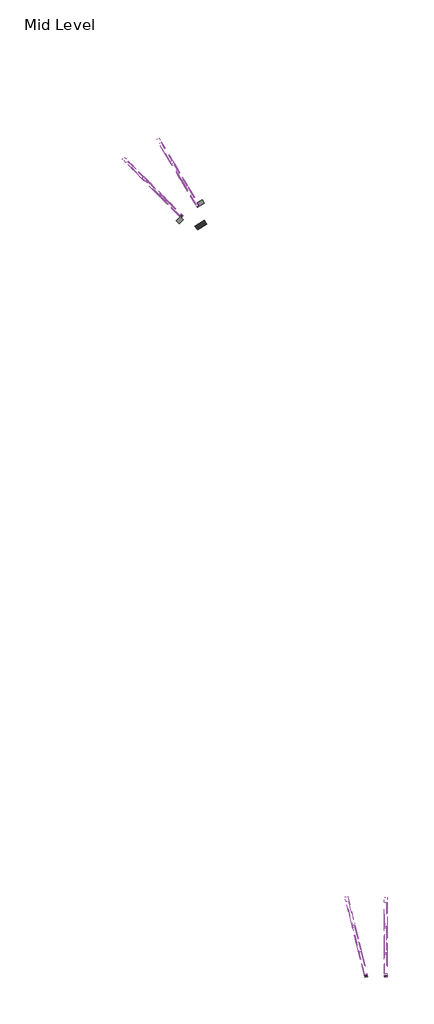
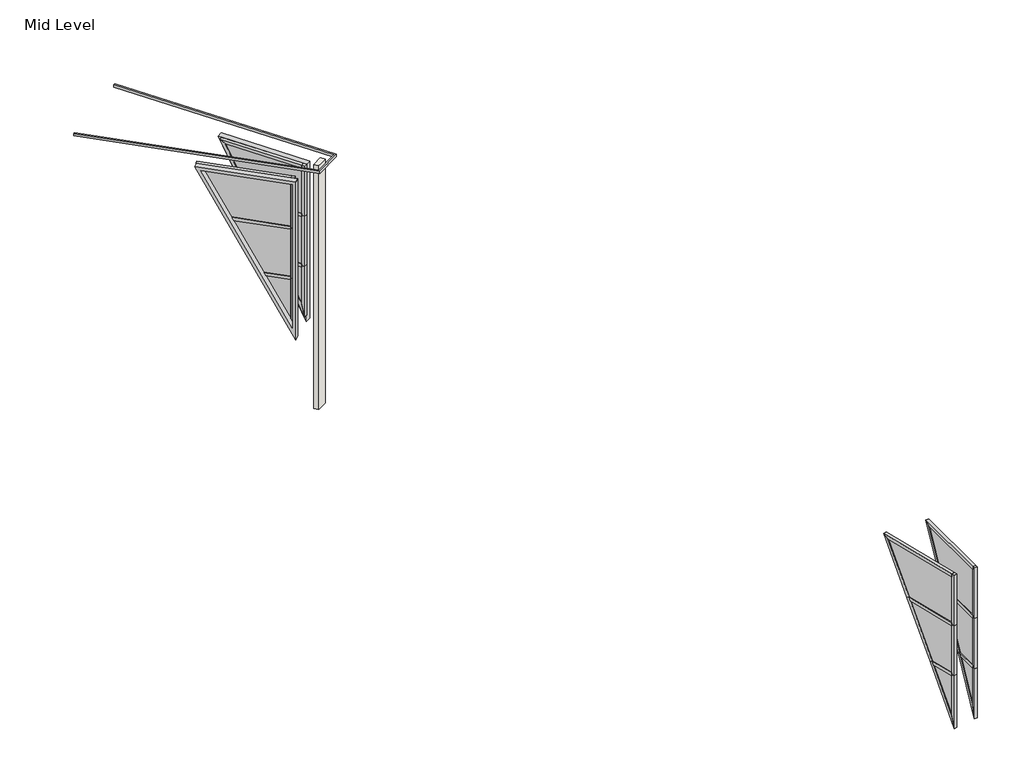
# One storey: 36 members, 12 plates, 1 furniture element, 1 wall.
"""IFC4 building model written with IfcOpenShell, lengths in millimetres."""

from ifc_helpers import new_model, si_unit, frame, origin, place, context, project, spatial, polyline, outline, extrude, transform, mapped, element, save
from components import casework_7_casework_7_e5262f13, rectangular_mullion_50x150mm_2f168007, rectangular_mullion_50x150mm_f55a7c15, rectangular_mullion_50x150mm_1f74a128, rectangular_mullion_50x150mm_1b0b66ed, rectangular_mullion_50x150mm_d610cb71, rectangular_mullion_50x150mm_8bf6f725, rectangular_mullion_50x150mm_a9fba038, rectangular_mullion_50x150mm_b1203546, rectangular_mullion_50x150mm_f1953873, rectangular_mullion_50x150mm_4709a87d, rectangular_mullion_50x150mm_19f53925, rectangular_mullion_50x150mm_e94796c8, rectangular_mullion_50x150mm_b4659898, rectangular_mullion_50x150mm_49fdc678, rectangular_mullion_50x150mm_2d824108, system_panel_glazed_8b080dad, system_panel_glazed_0f48b8cc, system_panel_glazed_f67ee010, system_panel_glazed_bd732f67, system_panel_glazed_6067745a, system_panel_glazed_2e5d5ee2

model = new_model("IFC4")

# Units and contexts
model_context = context("Model", 3, world=origin())
ifc_project = project(units=[si_unit("LENGTHUNIT", "METRE", prefix="MILLI")], contexts=[model_context])

# Site, building, storey
site = spatial("IfcSite", under=ifc_project)
building = spatial("IfcBuilding", under=site)
storey = spatial("IfcBuildingStorey", under=building, Name="Mid Level", Elevation=5300.0)

# Furniture
placement = place(None, origin())
casework_7_casework_7_shape = casework_7_casework_7_e5262f13(model_context)
element("IfcFurniture", 1, ObjectType="Casework 7 : Casework 7", at=placement, inside=storey, context=model_context, shape_type="MappedRepresentation", body=[
    mapped(casework_7_casework_7_shape, transform((0.0, 0.0, 0.0), x_axis=(1.0, 0.0, 0.0), y_axis=(0.0, 1.0, 0.0), z_axis=(0.0, 0.0, 1.0))),
])

# Members
rectangular_mullion_50x150mm_shape = rectangular_mullion_50x150mm_2f168007(model_context)
element("IfcMember", 2, ObjectType="Rectangular Mullion : 50x150mm", at=placement, inside=storey, context=model_context, shape_type="MappedRepresentation", body=[
    mapped(rectangular_mullion_50x150mm_shape, transform((1750.3252801, -1830.399005, 9094.2540131), x_axis=(0.0, 0.8848406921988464, -0.4658937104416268), y_axis=(-1.0, 0.0, 0.0), z_axis=(0.0, 0.4658937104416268, 0.8848406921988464))),
])
rectangular_mullion_50x150mm_2_shape = rectangular_mullion_50x150mm_f55a7c15(model_context)
element("IfcMember", 3, ObjectType="Rectangular Mullion : 50x150mm", at=placement, inside=storey, context=model_context, shape_type="MappedRepresentation", body=[
    mapped(rectangular_mullion_50x150mm_2_shape, transform((1750.3252801, -3159.4389803, 9094.2540131), x_axis=(0.0, 0.0, 1.0), y_axis=(-1.0, 0.0, 0.0), z_axis=(0.0, -1.0, 0.0))),
])
element("IfcMember", 4, ObjectType="Rectangular Mullion : 50x150mm", at=placement, inside=storey, context=model_context, shape_type="MappedRepresentation", body=[
    mapped(rectangular_mullion_50x150mm_2_shape, transform((-1535.1732495, 10240.6936902, 9094.2540131), x_axis=(0.0, 0.0, 1.0), y_axis=(-0.8571673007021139, -0.5150380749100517, 0.0), z_axis=(0.5150380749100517, -0.8571673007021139, 0.0))),
])
rectangular_mullion_50x150mm_3_shape = rectangular_mullion_50x150mm_1f74a128(model_context)
element("IfcMember", 5, ObjectType="Rectangular Mullion : 50x150mm", at=placement, inside=storey, context=model_context, shape_type="MappedRepresentation", body=[
    mapped(rectangular_mullion_50x150mm_3_shape, transform((1750.3252801, -3159.4389803, 8221.2146202), x_axis=(0.0, 0.0, 1.0), y_axis=(-1.0, 0.0, 0.0), z_axis=(0.0, -1.0, 0.0))),
])
element("IfcMember", 6, ObjectType="Rectangular Mullion : 50x150mm", at=placement, inside=storey, context=model_context, shape_type="MappedRepresentation", body=[
    mapped(rectangular_mullion_50x150mm_3_shape, transform((-1535.1732495, 10240.6936902, 8221.2146202), x_axis=(0.0, 0.0, 1.0), y_axis=(-0.8571673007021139, -0.5150380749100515, 0.0), z_axis=(0.5150380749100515, -0.8571673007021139, 0.0))),
])
rectangular_mullion_50x150mm_4_shape = rectangular_mullion_50x150mm_1b0b66ed(model_context)
element("IfcMember", 7, ObjectType="Rectangular Mullion : 50x150mm", at=placement, inside=storey, context=model_context, shape_type="MappedRepresentation", body=[
    mapped(rectangular_mullion_50x150mm_4_shape, transform((1750.3252801, -3159.4389803, 7348.1752273), x_axis=(0.0, 0.0, 1.0), y_axis=(-1.0, 0.0, 0.0), z_axis=(0.0, -1.0, 0.0))),
])
element("IfcMember", 8, ObjectType="Rectangular Mullion : 50x150mm", at=placement, inside=storey, context=model_context, shape_type="MappedRepresentation", body=[
    mapped(rectangular_mullion_50x150mm_4_shape, transform((-1535.1732495, 10240.6936902, 7348.1752273), x_axis=(0.0, 0.0, 1.0), y_axis=(-0.8571673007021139, -0.5150380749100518, 0.0), z_axis=(0.5150380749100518, -0.8571673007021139, 0.0))),
])
rectangular_mullion_50x150mm_5_shape = rectangular_mullion_50x150mm_d610cb71(model_context)
element("IfcMember", 9, ObjectType="Rectangular Mullion : 50x150mm", at=placement, inside=storey, context=model_context, shape_type="MappedRepresentation", body=[
    mapped(rectangular_mullion_50x150mm_5_shape, transform((1750.3252801, -2290.0789968, 8221.2146202), x_axis=(0.0, 0.8848406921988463, -0.465893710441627), y_axis=(-1.0, 0.0, 0.0), z_axis=(0.0, 0.465893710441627, 0.8848406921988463))),
])
element("IfcMember", 10, ObjectType="Rectangular Mullion : 50x150mm", at=placement, inside=storey, context=model_context, shape_type="MappedRepresentation", body=[
    mapped(rectangular_mullion_50x150mm_5_shape, transform((-1982.9267419, 10985.8806406, 8221.2146202), x_axis=(-0.4557266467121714, 0.7584565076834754, -0.4658937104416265), y_axis=(-0.8571673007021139, -0.5150380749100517, 0.0), z_axis=(-0.2399529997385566, 0.39934885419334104, 0.8848406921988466))),
])
rectangular_mullion_50x150mm_6_shape = rectangular_mullion_50x150mm_8bf6f725(model_context)
element("IfcMember", 11, ObjectType="Rectangular Mullion : 50x150mm", at=placement, inside=storey, context=model_context, shape_type="MappedRepresentation", body=[
    mapped(rectangular_mullion_50x150mm_6_shape, transform((1750.3252801, -2749.7589886, 7348.1752273), x_axis=(0.0, 0.8848406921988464, -0.4658937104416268), y_axis=(-1.0, 0.0, 0.0), z_axis=(0.0, 0.4658937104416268, 0.8848406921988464))),
])
element("IfcMember", 12, ObjectType="Rectangular Mullion : 50x150mm", at=placement, inside=storey, context=model_context, shape_type="MappedRepresentation", body=[
    mapped(rectangular_mullion_50x150mm_6_shape, transform((-1746.1740438, 10591.8579829, 7348.1752273), x_axis=(-0.4557266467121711, 0.758456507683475, -0.4658937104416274), y_axis=(-0.8571673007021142, -0.5150380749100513, 0.0), z_axis=(-0.23995299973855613, 0.3993488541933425, 0.8848406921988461))),
])
rectangular_mullion_50x150mm_7_shape = rectangular_mullion_50x150mm_a9fba038(model_context)
element("IfcMember", 13, ObjectType="Rectangular Mullion : 50x150mm", at=placement, inside=storey, context=model_context, shape_type="MappedRepresentation", body=[
    mapped(rectangular_mullion_50x150mm_7_shape, transform((1750.3252801, -3209.4389803, 6475.1358345), x_axis=(0.0, -1.0, 0.0), y_axis=(-1.0, 0.0, 0.0), z_axis=(0.0, 0.0, -1.0))),
])
element("IfcMember", 14, ObjectType="Rectangular Mullion : 50x150mm", at=placement, inside=storey, context=model_context, shape_type="MappedRepresentation", body=[
    mapped(rectangular_mullion_50x150mm_7_shape, transform((-1509.4213458, 10197.8353252, 6475.1358345), x_axis=(0.5150380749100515, -0.8571673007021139, 0.0), y_axis=(-0.8571673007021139, -0.5150380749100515, 0.0), z_axis=(0.0, 0.0, -1.0))),
])
rectangular_mullion_50x150mm_8_shape = rectangular_mullion_50x150mm_b1203546(model_context)
element("IfcMember", 15, ObjectType="Rectangular Mullion : 50x150mm", at=placement, inside=storey, context=model_context, shape_type="MappedRepresentation", body=[
    mapped(rectangular_mullion_50x150mm_8_shape, transform((1750.3252801, -3209.4389803, 8221.2146202), x_axis=(0.0, -1.0, 0.0), y_axis=(-1.0, 0.0, 0.0), z_axis=(0.0, 0.0, -1.0))),
])
element("IfcMember", 16, ObjectType="Rectangular Mullion : 50x150mm", at=placement, inside=storey, context=model_context, shape_type="MappedRepresentation", body=[
    mapped(rectangular_mullion_50x150mm_8_shape, transform((1412.4675769, -3216.568006, 8221.2540131), x_axis=(0.24192189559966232, -0.9702957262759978, 0.0), y_axis=(-0.9702957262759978, -0.24192189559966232, 0.0), z_axis=(0.0, 0.0, -1.0))),
])
element("IfcMember", 17, ObjectType="Rectangular Mullion : 50x150mm", at=placement, inside=storey, context=model_context, shape_type="MappedRepresentation", body=[
    mapped(rectangular_mullion_50x150mm_8_shape, transform((-1509.4213458, 10197.8353252, 8221.2146202), x_axis=(0.5150380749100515, -0.8571673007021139, 0.0), y_axis=(-0.8571673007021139, -0.5150380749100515, 0.0), z_axis=(0.0, 0.0, -1.0))),
])
element("IfcMember", 18, ObjectType="Rectangular Mullion : 50x150mm", at=placement, inside=storey, context=model_context, shape_type="MappedRepresentation", body=[
    mapped(rectangular_mullion_50x150mm_8_shape, transform((-1795.3502017, 10017.7149763, 8221.2540131), x_axis=(0.7071067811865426, -0.7071067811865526, 0.0), y_axis=(-0.7071067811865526, -0.7071067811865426, 0.0), z_axis=(0.0, 0.0, -1.0))),
])
element("IfcMember", 19, ObjectType="Rectangular Mullion : 50x150mm", at=placement, inside=storey, context=model_context, shape_type="MappedRepresentation", body=[
    mapped(rectangular_mullion_50x150mm_8_shape, transform((1750.3252801, -3209.4389803, 7348.1752273), x_axis=(0.0, -1.0, 0.0), y_axis=(-1.0, 0.0, 0.0), z_axis=(0.0, 0.0, -1.0))),
])
element("IfcMember", 20, ObjectType="Rectangular Mullion : 50x150mm", at=placement, inside=storey, context=model_context, shape_type="MappedRepresentation", body=[
    mapped(rectangular_mullion_50x150mm_8_shape, transform((1412.4675769, -3216.568006, 7348.2540131), x_axis=(0.24192189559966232, -0.9702957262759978, 0.0), y_axis=(-0.9702957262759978, -0.24192189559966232, 0.0), z_axis=(0.0, 0.0, -1.0))),
])
element("IfcMember", 21, ObjectType="Rectangular Mullion : 50x150mm", at=placement, inside=storey, context=model_context, shape_type="MappedRepresentation", body=[
    mapped(rectangular_mullion_50x150mm_8_shape, transform((-1509.4213458, 10197.8353252, 7348.1752273), x_axis=(0.5150380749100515, -0.8571673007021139, 0.0), y_axis=(-0.8571673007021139, -0.5150380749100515, 0.0), z_axis=(0.0, 0.0, -1.0))),
])
element("IfcMember", 22, ObjectType="Rectangular Mullion : 50x150mm", at=placement, inside=storey, context=model_context, shape_type="MappedRepresentation", body=[
    mapped(rectangular_mullion_50x150mm_8_shape, transform((-1795.3502017, 10017.7149763, 7348.2540131), x_axis=(0.7071067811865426, -0.7071067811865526, 0.0), y_axis=(-0.7071067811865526, -0.7071067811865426, 0.0), z_axis=(0.0, 0.0, -1.0))),
])
rectangular_mullion_50x150mm_9_shape = rectangular_mullion_50x150mm_f1953873(model_context)
element("IfcMember", 23, ObjectType="Rectangular Mullion : 50x150mm", at=placement, inside=storey, context=model_context, shape_type="MappedRepresentation", body=[
    mapped(rectangular_mullion_50x150mm_9_shape, transform((1063.0273236, -1815.0397009, 9094.2540131), x_axis=(-0.2126325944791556, 0.8528227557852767, -0.4769493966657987), y_axis=(-0.9702957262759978, -0.2419218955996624, 0.0), z_axis=(-0.11538450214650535, 0.4627819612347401, 0.8789307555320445))),
])
element("IfcMember", 24, ObjectType="Rectangular Mullion : 50x150mm", at=placement, inside=storey, context=model_context, shape_type="MappedRepresentation", body=[
    mapped(rectangular_mullion_50x150mm_9_shape, transform((-2816.7194005, 11039.0841752, 9094.2540131), x_axis=(-0.6214978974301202, 0.621497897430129, -0.47694939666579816), y_axis=(-0.7071067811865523, -0.7071067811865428, 0.0), z_axis=(-0.33725415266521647, 0.3372541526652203, 0.8789307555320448))),
])
rectangular_mullion_50x150mm_10_shape = rectangular_mullion_50x150mm_4709a87d(model_context)
element("IfcMember", 25, ObjectType="Rectangular Mullion : 50x150mm", at=placement, inside=storey, context=model_context, shape_type="MappedRepresentation", body=[
    mapped(rectangular_mullion_50x150mm_10_shape, transform((1400.3714821, -3168.0532197, 9094.2540131), x_axis=(0.0, 0.0, 1.0), y_axis=(-0.9702957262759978, -0.2419218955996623, 0.0), z_axis=(0.2419218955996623, -0.9702957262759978, 0.0))),
])
element("IfcMember", 26, ObjectType="Rectangular Mullion : 50x150mm", at=placement, inside=storey, context=model_context, shape_type="MappedRepresentation", body=[
    mapped(rectangular_mullion_50x150mm_10_shape, transform((-1830.7055407, 10053.0703154, 9094.2540131), x_axis=(0.0, 0.0, 1.0), y_axis=(-0.7071067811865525, -0.7071067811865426, 0.0), z_axis=(0.7071067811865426, -0.7071067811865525, 0.0))),
])
rectangular_mullion_50x150mm_11_shape = rectangular_mullion_50x150mm_19f53925(model_context)
element("IfcMember", 27, ObjectType="Rectangular Mullion : 50x150mm", at=placement, inside=storey, context=model_context, shape_type="MappedRepresentation", body=[
    mapped(rectangular_mullion_50x150mm_11_shape, transform((1400.3714821, -3168.0532197, 8221.2540131), x_axis=(0.0, 0.0, 1.0), y_axis=(-0.9702957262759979, -0.24192189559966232, 0.0), z_axis=(0.24192189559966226, -0.9702957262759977, 0.0))),
])
element("IfcMember", 28, ObjectType="Rectangular Mullion : 50x150mm", at=placement, inside=storey, context=model_context, shape_type="MappedRepresentation", body=[
    mapped(rectangular_mullion_50x150mm_11_shape, transform((-1830.7055407, 10053.0703154, 8221.2540131), x_axis=(0.0, 0.0, 1.0), y_axis=(-0.7071067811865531, -0.7071067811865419, 0.0), z_axis=(0.7071067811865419, -0.7071067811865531, 0.0))),
])
rectangular_mullion_50x150mm_12_shape = rectangular_mullion_50x150mm_e94796c8(model_context)
element("IfcMember", 29, ObjectType="Rectangular Mullion : 50x150mm", at=placement, inside=storey, context=model_context, shape_type="MappedRepresentation", body=[
    mapped(rectangular_mullion_50x150mm_12_shape, transform((1400.3714821, -3168.0532197, 7348.2540131), x_axis=(0.0, 0.0, 1.0), y_axis=(-0.9702957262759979, -0.24192189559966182, 0.0), z_axis=(0.24192189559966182, -0.9702957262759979, 0.0))),
])
element("IfcMember", 30, ObjectType="Rectangular Mullion : 50x150mm", at=placement, inside=storey, context=model_context, shape_type="MappedRepresentation", body=[
    mapped(rectangular_mullion_50x150mm_12_shape, transform((-1830.7055407, 10053.0703154, 7348.2540131), x_axis=(0.0, 0.0, 1.0), y_axis=(-0.7071067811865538, -0.7071067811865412, 0.0), z_axis=(0.7071067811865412, -0.7071067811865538, 0.0))),
])
rectangular_mullion_50x150mm_13_shape = rectangular_mullion_50x150mm_b4659898(model_context)
element("IfcMember", 31, ObjectType="Rectangular Mullion : 50x150mm", at=placement, inside=storey, context=model_context, shape_type="MappedRepresentation", body=[
    mapped(rectangular_mullion_50x150mm_13_shape, transform((1177.6332465, -2274.6989513, 8221.2540131), x_axis=(-0.21263259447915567, 0.8528227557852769, -0.4769493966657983), y_axis=(-0.9702957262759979, -0.24192189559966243, 0.0), z_axis=(-0.11538450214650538, 0.46278196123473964, 0.8789307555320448))),
])
element("IfcMember", 32, ObjectType="Rectangular Mullion : 50x150mm", at=placement, inside=storey, context=model_context, shape_type="MappedRepresentation", body=[
    mapped(rectangular_mullion_50x150mm_13_shape, transform((-2481.7409355, 10704.1057102, 8221.2540131), x_axis=(-0.62149789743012, 0.6214978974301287, -0.4769493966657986), y_axis=(-0.7071067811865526, -0.7071067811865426, 0.0), z_axis=(-0.33725415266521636, 0.337254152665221, 0.8789307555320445))),
])
rectangular_mullion_50x150mm_14_shape = rectangular_mullion_50x150mm_49fdc678(model_context)
element("IfcMember", 33, ObjectType="Rectangular Mullion : 50x150mm", at=placement, inside=storey, context=model_context, shape_type="MappedRepresentation", body=[
    mapped(rectangular_mullion_50x150mm_14_shape, transform((1292.2391694, -2734.3582016, 7348.2540131), x_axis=(-0.21263259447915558, 0.8528227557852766, -0.4769493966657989), y_axis=(-0.9702957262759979, -0.2419218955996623, 0.0), z_axis=(-0.1153845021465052, 0.46278196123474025, 0.8789307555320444))),
])
element("IfcMember", 34, ObjectType="Rectangular Mullion : 50x150mm", at=placement, inside=storey, context=model_context, shape_type="MappedRepresentation", body=[
    mapped(rectangular_mullion_50x150mm_14_shape, transform((-2146.7624706, 10369.1272453, 7348.2540131), x_axis=(-0.6214978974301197, 0.6214978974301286, -0.4769493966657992), y_axis=(-0.7071067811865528, -0.7071067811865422, 0.0), z_axis=(-0.3372541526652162, 0.3372541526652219, 0.8789307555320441))),
])
rectangular_mullion_50x150mm_15_shape = rectangular_mullion_50x150mm_2d824108(model_context)
element("IfcMember", 35, ObjectType="Rectangular Mullion : 50x150mm", at=placement, inside=storey, context=model_context, shape_type="MappedRepresentation", body=[
    mapped(rectangular_mullion_50x150mm_15_shape, transform((1412.4675769, -3216.568006, 6432.4252572), x_axis=(0.24192189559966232, -0.9702957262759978, 0.0), y_axis=(-0.9702957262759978, -0.24192189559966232, 0.0), z_axis=(0.0, 0.0, -1.0))),
])
element("IfcMember", 36, ObjectType="Rectangular Mullion : 50x150mm", at=placement, inside=storey, context=model_context, shape_type="MappedRepresentation", body=[
    mapped(rectangular_mullion_50x150mm_15_shape, transform((-1795.3502017, 10017.7149763, 6432.4252572), x_axis=(0.7071067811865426, -0.7071067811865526, 0.0), y_axis=(-0.7071067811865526, -0.7071067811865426, 0.0), z_axis=(0.0, 0.0, -1.0))),
])
element("IfcMember", 37, ObjectType="Rectangular Mullion : 50x150mm", at=placement, inside=storey, context=model_context, shape_type="MappedRepresentation", body=[
    mapped(rectangular_mullion_50x150mm_shape, transform((-2219.6794399, 11379.9032983, 9094.2540131), x_axis=(-0.4557266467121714, 0.7584565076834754, -0.4658937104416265), y_axis=(-0.8571673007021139, -0.5150380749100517, 0.0), z_axis=(-0.2399529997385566, 0.39934885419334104, 0.8848406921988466))),
])

# Plates
system_panel_glazed_shape = system_panel_glazed_8b080dad(model_context)
element("IfcPlate", 38, ObjectType="System Panel : Glazed", at=placement, inside=storey, context=model_context, shape_type="MappedRepresentation", body=[
    mapped(system_panel_glazed_shape, transform((1750.3252801, -2989.4342623, 6677.4180986), x_axis=(0.0, -1.0, 0.0), y_axis=(1.0, 0.0, 0.0), z_axis=(0.0, 0.0, 1.0))),
])
element("IfcPlate", 39, ObjectType="System Panel : Glazed", at=placement, inside=storey, context=model_context, shape_type="MappedRepresentation", body=[
    mapped(system_panel_glazed_shape, transform((-1622.7321522, 10386.4161754, 6677.4180986), x_axis=(0.5150380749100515, -0.8571673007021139, 0.0), y_axis=(0.8571673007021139, 0.5150380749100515, 0.0), z_axis=(0.0, 0.0, 1.0))),
])
system_panel_glazed_2_shape = system_panel_glazed_0f48b8cc(model_context)
element("IfcPlate", 40, ObjectType="System Panel : Glazed", at=placement, inside=storey, context=model_context, shape_type="MappedRepresentation", body=[
    mapped(system_panel_glazed_2_shape, transform((1750.3252801, -2536.3358749, 8246.2146202), x_axis=(0.0, -1.0, 0.0), y_axis=(1.0, 0.0, 0.0), z_axis=(0.0, 0.0, 1.0))),
])
element("IfcPlate", 41, ObjectType="System Panel : Glazed", at=placement, inside=storey, context=model_context, shape_type="MappedRepresentation", body=[
    mapped(system_panel_glazed_2_shape, transform((-1856.0950734, 10774.7972971, 8246.2146202), x_axis=(0.5150380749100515, -0.8571673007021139, 0.0), y_axis=(0.8571673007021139, 0.5150380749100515, 0.0), z_axis=(0.0, 0.0, 1.0))),
])
system_panel_glazed_3_shape = system_panel_glazed_f67ee010(model_context)
element("IfcPlate", 42, ObjectType="System Panel : Glazed", at=placement, inside=storey, context=model_context, shape_type="MappedRepresentation", body=[
    mapped(system_panel_glazed_3_shape, transform((1750.3252801, -2759.5942664, 7373.1752273), x_axis=(0.0, -1.0, 0.0), y_axis=(1.0, 0.0, 0.0), z_axis=(0.0, 0.0, 1.0))),
])
element("IfcPlate", 43, ObjectType="System Panel : Glazed", at=placement, inside=storey, context=model_context, shape_type="MappedRepresentation", body=[
    mapped(system_panel_glazed_3_shape, transform((-1741.1085013, 10583.4275043, 7373.1752273), x_axis=(0.5150380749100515, -0.8571673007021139, 0.0), y_axis=(0.8571673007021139, 0.5150380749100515, 0.0), z_axis=(0.0, 0.0, 1.0))),
])
system_panel_glazed_4_shape = system_panel_glazed_bd732f67(model_context)
element("IfcPlate", 44, ObjectType="System Panel : Glazed", at=placement, inside=storey, context=model_context, shape_type="MappedRepresentation", body=[
    mapped(system_panel_glazed_4_shape, transform((1354.8274461, -2985.3860684, 6629.3990629), x_axis=(0.24192189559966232, -0.9702957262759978, 0.0), y_axis=(0.9702957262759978, 0.24192189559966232, 0.0), z_axis=(0.0, 0.0, 1.0))),
])
element("IfcPlate", 45, ObjectType="System Panel : Glazed", at=placement, inside=storey, context=model_context, shape_type="MappedRepresentation", body=[
    mapped(system_panel_glazed_4_shape, transform((-1963.8249371, 10186.1897118, 6629.3990629), x_axis=(0.7071067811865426, -0.7071067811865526, 0.0), y_axis=(0.7071067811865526, 0.7071067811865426, 0.0), z_axis=(0.0, 0.0, 1.0))),
])
system_panel_glazed_5_shape = system_panel_glazed_6067745a(model_context)
element("IfcPlate", 46, ObjectType="System Panel : Glazed", at=placement, inside=storey, context=model_context, shape_type="MappedRepresentation", body=[
    mapped(system_panel_glazed_5_shape, transform((1241.8625015, -2532.3084225, 8246.2540131), x_axis=(0.24192189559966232, -0.9702957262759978, 0.0), y_axis=(0.9702957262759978, 0.24192189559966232, 0.0), z_axis=(0.0, 0.0, 1.0))),
])
element("IfcPlate", 47, ObjectType="System Panel : Glazed", at=placement, inside=storey, context=model_context, shape_type="MappedRepresentation", body=[
    mapped(system_panel_glazed_5_shape, transform((-2294.0070323, 10516.371807, 8246.2540131), x_axis=(0.7071067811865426, -0.7071067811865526, 0.0), y_axis=(0.7071067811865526, 0.7071067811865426, 0.0), z_axis=(0.0, 0.0, 1.0))),
])
system_panel_glazed_6_shape = system_panel_glazed_2e5d5ee2(model_context)
element("IfcPlate", 48, ObjectType="System Panel : Glazed", at=placement, inside=storey, context=model_context, shape_type="MappedRepresentation", body=[
    mapped(system_panel_glazed_6_shape, transform((1297.5244846, -2755.5564433, 7373.2540131), x_axis=(0.24192189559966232, -0.9702957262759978, 0.0), y_axis=(0.9702957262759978, 0.24192189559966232, 0.0), z_axis=(0.0, 0.0, 1.0))),
])
element("IfcPlate", 49, ObjectType="System Panel : Glazed", at=placement, inside=storey, context=model_context, shape_type="MappedRepresentation", body=[
    mapped(system_panel_glazed_6_shape, transform((-2131.3141696, 10353.6789443, 7373.2540131), x_axis=(0.7071067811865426, -0.7071067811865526, 0.0), y_axis=(0.7071067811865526, 0.7071067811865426, 0.0), z_axis=(0.0, 0.0, 1.0))),
])

# Wall
element("IfcWall", 50, ObjectType="Roof Dormer wall", at=placement, inside=storey, context=model_context, shape_type="SweptSolid", body=[
    extrude(outline(polyline([(-1369.0273645, 9891.3703516), (-1523.2851437, 9798.6829269), (-1577.9416851, 9853.3394684), (-1407.6552201, 9955.6578992), (-1369.0273645, 9891.3703516)])), frame((0.0, 0.0, 5100.0), z_axis=(0.0, 0.0, 1.0), x_axis=(1.0, 0.0, 0.0)), (0.0, 0.0, 1.0), 4234.2540131),
])

save(model, "model.ifc")
